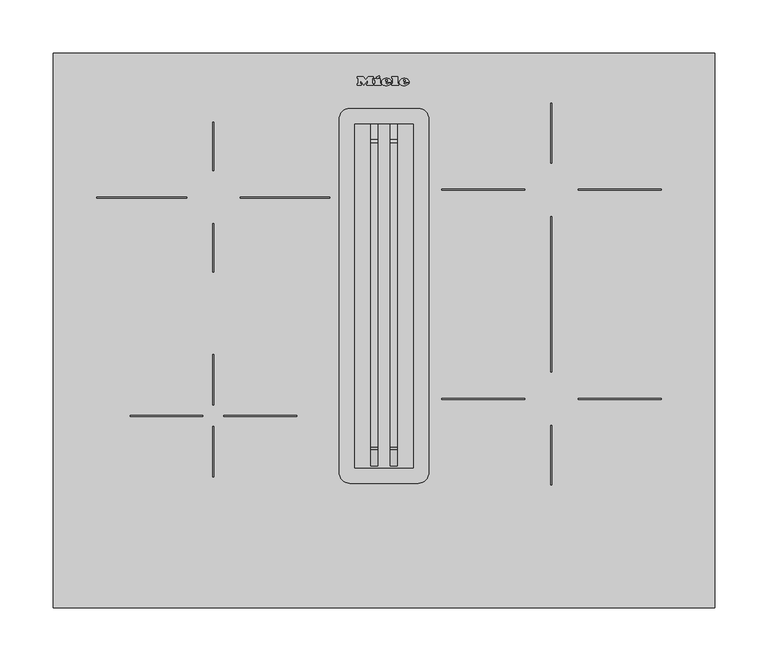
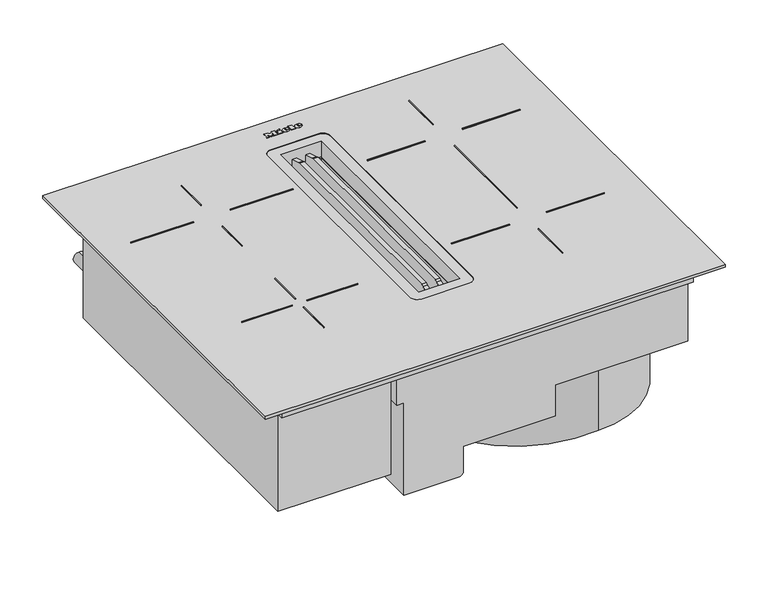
"""IFC4 building model written with IfcOpenShell, lengths in millimetres: proxy geometry, 13161470_CH_KMDA5649FL_MASW : 26D56493_CH_13161470_KMDA5649FL_MASW."""

from ifc_helpers import new_model, si_unit, point, frame, frame_2d, origin, origin_with_axes, place, context, project, spatial, polyline, circle_curve, ellipse_curve, trimmed, segment, composite_curve, outline, extrude, source, transform, mapped, element, save
from ifc_brep_helpers import plane_surface, cylinder_surface, revolved_surface, extruded_surface, advanced_brep


def specialty_equipment_407eca65(model_context):
    return source(origin(), model_context, "Body", "SolidModel", [
        extrude(outline(polyline([(-185.0231455, 385.2660958), (-185.0231455, 384.3745919), (-269.253587, 384.3745919), (-269.253587, 385.2660958), (-185.0231455, 385.2660958)])), frame((0.0, 0.0, 4.0), z_axis=(0.0, 0.0, 1.0), x_axis=(1.0, 0.0, 0.0)), (0.0, 0.0, 1.0), 1.0),
        extrude(outline(polyline([(-50.7511355, 385.2660958), (-50.7511355, 384.3745919), (-134.981577, 384.3745919), (-134.981577, 385.2660958), (-50.7511355, 385.2660958)])), frame((0.0, 0.0, 4.0), z_axis=(0.0, 0.0, 1.0), x_axis=(1.0, 0.0, 0.0)), (0.0, 0.0, 1.0), 1.0),
        extrude(outline(polyline([(-160.5088115, 410.0057875), (-160.5088115, 455.4962451), (-159.6889436, 455.4962451), (-159.6889436, 410.0057875), (-160.5088115, 410.0057875)])), frame((0.0, 0.0, 4.0), z_axis=(0.0, 0.0, 1.0), x_axis=(1.0, 0.0, 0.0)), (0.0, 0.0, 1.0), 1.0),
        extrude(outline(polyline([(-160.5088115, 314.5331558), (-160.5088115, 360.0236134), (-159.6889436, 360.0236134), (-159.6889436, 314.5331558), (-160.5088115, 314.5331558)])), frame((0.0, 0.0, 4.0), z_axis=(0.0, 0.0, 1.0), x_axis=(1.0, 0.0, 0.0)), (0.0, 0.0, 1.0), 1.0),
        extrude(outline(polyline([(-160.5088115, 189.963906), (-160.5088115, 237.5012596), (-159.6889436, 237.5012596), (-159.6889436, 189.963906), (-160.5088115, 189.963906)])), frame((0.0, 0.0, 4.0), z_axis=(0.0, 0.0, 1.0), x_axis=(1.0, 0.0, 0.0)), (0.0, 0.0, 1.0), 1.0),
        extrude(outline(polyline([(-160.5088115, 122.4905434), (-160.5088115, 170.0291789), (-159.6889436, 170.0291789), (-159.6889436, 122.4905434), (-160.5088115, 122.4905434)])), frame((0.0, 0.0, 4.0), z_axis=(0.0, 0.0, 1.0), x_axis=(1.0, 0.0, 0.0)), (0.0, 0.0, 1.0), 1.0),
        extrude(outline(polyline([(-170.0081079, 180.2663712), (-170.0081079, 179.3748673), (-238.0057352, 179.3748673), (-238.0057352, 180.2663712), (-170.0081079, 180.2663712)])), frame((0.0, 0.0, 4.0), z_axis=(0.0, 0.0, 1.0), x_axis=(1.0, 0.0, 0.0)), (0.0, 0.0, 1.0), 1.0),
        extrude(outline(polyline([(-81.9709245, 180.2663712), (-81.9709245, 179.3748673), (-150.0311368, 179.3748673), (-150.0311368, 180.2663712), (-81.9709245, 180.2663712)])), frame((0.0, 0.0, 4.0), z_axis=(0.0, 0.0, 1.0), x_axis=(1.0, 0.0, 0.0)), (0.0, 0.0, 1.0), 1.0),
        extrude(outline(polyline([(53.9676301, 392.454808), (131.7263568, 392.454808), (131.7263568, 391.5633041), (53.9676301, 391.5633041), (53.9676301, 392.454808)])), frame((0.0, 0.0, 4.0), z_axis=(0.0, 0.0, 1.0), x_axis=(1.0, 0.0, 0.0)), (0.0, 0.0, 1.0), 1.0),
        extrude(outline(polyline([(157.2535913, 417.0048626), (156.4337234, 417.0048626), (156.4337234, 473.0086376), (157.2535913, 473.0086376), (157.2535913, 417.0048626)])), frame((0.0, 0.0, 4.0), z_axis=(0.0, 0.0, 1.0), x_axis=(1.0, 0.0, 0.0)), (0.0, 0.0, 1.0), 1.0),
        extrude(outline(polyline([(181.9868936, 392.454808), (259.7456203, 392.454808), (259.7456203, 391.5633041), (181.9868936, 391.5633041), (181.9868936, 392.454808)])), frame((0.0, 0.0, 4.0), z_axis=(0.0, 0.0, 1.0), x_axis=(1.0, 0.0, 0.0)), (0.0, 0.0, 1.0), 1.0),
        extrude(outline(polyline([(156.4337234, 367.0175808), (157.2535913, 367.0175808), (157.2535913, 220.9830529), (156.4337234, 220.9830529), (156.4337234, 367.0175808)])), frame((0.0, 0.0, 4.0), z_axis=(0.0, 0.0, 1.0), x_axis=(1.0, 0.0, 0.0)), (0.0, 0.0, 1.0), 1.0),
        extrude(outline(polyline([(53.9907222, 196.2758393), (131.9846022, 196.2758393), (131.9846022, 195.3843354), (53.9907222, 195.3843354), (53.9907222, 196.2758393)])), frame((0.0, 0.0, 4.0), z_axis=(0.0, 0.0, 1.0), x_axis=(1.0, 0.0, 0.0)), (0.0, 0.0, 1.0), 1.0),
        extrude(outline(polyline([(182.2319594, 196.2758393), (259.9906861, 196.2758393), (259.9906861, 195.3843354), (182.2319594, 195.3843354), (182.2319594, 196.2758393)])), frame((0.0, 0.0, 4.0), z_axis=(0.0, 0.0, 1.0), x_axis=(1.0, 0.0, 0.0)), (0.0, 0.0, 1.0), 1.0),
        extrude(outline(polyline([(156.4337234, 170.969821), (157.2535913, 170.969821), (157.2535913, 115.0020284), (156.4337234, 115.0020284), (156.4337234, 170.969821)])), frame((0.0, 0.0, 4.0), z_axis=(0.0, 0.0, 1.0), x_axis=(1.0, 0.0, 0.0)), (0.0, 0.0, 1.0), 1.0),
        extrude(outline(polyline([(310.0, 520.0), (310.0, 0.0), (-310.0, 0.0), (-310.0, 520.0), (310.0, 520.0)]), holes=[composite_curve([segment(trimmed(circle_curve(frame_2d((32.0, 126.6999969)), 10.0), [point((32.0, 116.6999969))], [point((42.0, 126.6999969))], True, "CARTESIAN"), True, "CONTINUOUS"), segment(polyline([(42.0, 126.6999969), (42.0, 458.1999969)]), True, "CONTINUOUS"), segment(trimmed(circle_curve(frame_2d((32.0, 458.1999969)), 10.0), [point((42.0, 458.1999969))], [point((32.0, 468.1999969))], True, "CARTESIAN"), True, "CONTINUOUS"), segment(polyline([(32.0, 468.1999969), (-32.0, 468.1999969)]), True, "CONTINUOUS"), segment(trimmed(circle_curve(frame_2d((-32.0, 458.1999969)), 10.0), [point((-32.0, 468.1999969))], [point((-42.0, 458.1999969))], True, "CARTESIAN"), True, "CONTINUOUS"), segment(polyline([(-42.0, 458.1999969), (-42.0, 126.6999969)]), True, "CONTINUOUS"), segment(trimmed(circle_curve(frame_2d((-32.0, 126.6999969)), 10.0), [point((-42.0, 126.6999969))], [point((-32.0, 116.6999969))], True, "CARTESIAN"), True, "CONTINUOUS"), segment(polyline([(-32.0, 116.6999969), (32.0, 116.6999969)]), True, "CONTINUOUS")], self_intersect=False)]), origin_with_axes(), (0.0, 0.0, 1.0), 4.0),
        extrude(outline(composite_curve([segment(trimmed(circle_curve(frame_2d((-99.3499878, -262.3920059)), 8.0), [point((-91.3499878, -262.3920059))], [point((-107.3499878, -262.3920059))], False, "CARTESIAN"), True, "CONTINUOUS"), segment(trimmed(circle_curve(frame_2d((-99.3499878, -262.3920059)), 8.0), [point((-107.3499878, -262.3920059))], [point((-91.3499878, -262.3920059))], False, "CARTESIAN"), True, "CONTINUOUS")], self_intersect=False)), frame((0.0, 487.2997641, 0.0), z_axis=(0.0, 1.0, 0.0), x_axis=(0.0, 0.0, 1.0)), (0.0, 0.0, 1.0), 30.0),
        extrude(outline(polyline([(-103.3499878, -256.4901977), (-95.313483, -256.4901977), (-95.313483, -262.2664355), (-96.3180461, -262.2664355), (-96.3180461, -257.4947608), (-98.7038834, -257.4947608), (-98.7038834, -262.0152948), (-99.7084466, -262.0152948), (-99.7084466, -257.4947608), (-102.3454247, -257.4947608), (-102.3454247, -262.3920059), (-103.3499878, -262.3920059), (-103.3499878, -256.4901977)])), frame((0.0, 517.2997641, 0.0), z_axis=(0.0, 1.0, 0.0), x_axis=(0.0, 0.0, 1.0)), (0.0, 0.0, 1.0), 1.0),
        extrude(outline(polyline([(-103.3499878, -263.8988506), (-95.313483, -263.8988506), (-95.313483, -264.9034137), (-102.3454247, -264.9034137), (-102.3454247, -268.9216661), (-103.3499878, -268.9216661), (-103.3499878, -263.8988506)])), frame((0.0, 517.2997641, 0.0), z_axis=(0.0, 1.0, 0.0), x_axis=(0.0, 0.0, 1.0)), (0.0, 0.0, 1.0), 1.0),
        extrude(outline(polyline([(132.855793, -27.8644755), (132.855793, -8.7892649), (148.3794196, -4.6000061), (150.5794257, -2.4), (435.4785822, -2.4), (439.3785822, -4.5), (455.2872525, -8.7931659), (455.2872525, -27.8644755), (132.855793, -27.8644755)])), frame((6.0183469, 0.0, 0.0), z_axis=(1.0, 0.0, 0.0), x_axis=(0.0, 1.0, 0.0)), (0.0, 0.0, 1.0), 6.1876133),
        extrude(outline(polyline([(277.5, 502.0), (277.5, 18.0), (-277.5, 18.0), (-277.5, 502.0), (277.5, 502.0)]), holes=[polyline([(42.0, 468.1999969), (-42.0, 468.1999969), (-42.0, 116.6999969), (42.0, 116.6999969), (42.0, 468.1999969)])]), frame((0.0, 0.0, -20.5), z_axis=(0.0, 0.0, 1.0), x_axis=(1.0, 0.0, 0.0)), (0.0, 0.0, 1.0), 20.5),
        extrude(outline(polyline([(487.2997641, -163.5), (32.4997998, -163.5), (32.4997998, -20.5), (491.8999939, -20.5), (491.8999939, -24.5), (487.2997641, -24.5), (487.2997641, -163.5)])), frame((-274.5, 0.0, 0.0), z_axis=(1.0, 0.0, 0.0), x_axis=(0.0, 1.0, 0.0)), (0.0, 0.0, 1.0), 152.0),
        advanced_brep(
        [(-32.4952011, 19.0, -183.8499954), (-32.4952011, 19.0, -147.4324921), (91.658851, 19.0, -147.4324921), (91.658851, 19.0, -102.7499939), (270.7999878, 19.0, -102.7499939), (270.7999878, 19.0, -20.5), (-121.7377896, 19.0, -20.5), (-121.7377896, 19.0, -57.4346007), (-112.4711008, 19.0, -57.4346007), (-112.4711008, 19.0, -188.8499954), (-37.4952011, 19.0, -188.8499954), (-32.4952011, 500.779007, -183.8499954), (-37.4952011, 500.779007, -188.8499954), (-112.4711008, 500.779007, -188.8499954), (-112.4711008, 500.779007, -57.4346007), (-121.7377896, 500.779007, -57.4346007), (-121.7377896, 500.779007, -20.5), (270.7999878, 500.779007, -20.5), (270.7999878, 500.779007, -102.7499939), (110.0, 500.779007, -102.7499939), (110.0, 500.779007, -100.9499939), (-18.6499996, 500.779007, -100.9499939), (-18.6499996, 500.779007, -147.4324921), (-32.4952011, 500.779007, -147.4324921), (-18.6499996, 467.769162, -147.4324921), (-10.5056189, 467.769162, -147.4324921), (-10.5056189, 336.4911245, -147.4324921), (-25.2594925, 171.0944197, -147.4324921), (91.658851, 30.3896584, -147.4324921), (91.658851, 30.3896584, -102.7499939), (153.5433459, 26.0504496, -102.7499939), (270.7999878, 117.1371356, -102.7499939), (270.7999878, 220.7870548, -102.7499939), (229.3122977, 276.3279279, -102.7499939), (211.8034997, 300.2166013, -102.7499939), (211.8034997, 468.1999969, -102.7499939), (110.0, 468.1999969, -102.7499939), (270.7999878, 117.1371356, -100.9499939), (270.7999878, 220.7870548, -100.9499939), (-27.5, 453.6999969, -20.5), (27.5, 453.6999969, -20.5), (27.5, 131.1999969, -20.5), (-27.5, 131.1999969, -20.5), (-25.2594925, 171.0944197, -193.675824), (-10.5056189, 336.4911245, -193.675824), (-10.5056189, 468.1999969, -193.675824), (211.8034997, 468.1999969, -193.675824), (211.8034997, 300.2166013, -193.675824), (229.3122977, 276.3279279, -193.675824), (274.1146874, 144.1558135, -193.675824), (153.5433459, 26.0504496, -193.675824), (274.1146874, 144.1558135, -100.9499939), (-10.5056189, 468.1999969, -100.9499939), (110.0, 468.1999969, -100.9499939), (-10.5056189, 467.769162, -100.9499939), (-18.6499996, 467.769162, -100.9499939), (27.5, 453.6999969, -74.5751385), (-27.5, 453.6999969, -74.5751385), (-27.5, 131.1999969, -74.5751385), (27.5, 131.1999969, -74.5751385)],
        [
            (0, 1),
            (1, 2),
            (2, 3),
            (3, 4),
            (4, 5),
            (5, 6),
            (6, 7),
            (7, 8),
            (8, 9),
            (9, 10),
            (10, 0, circle_curve(frame((-37.4952011, 19.0, -183.8499954), z_axis=(0.0, -1.0, 0.0), x_axis=(1.0, 0.0, 0.0)), 5.0)),
            (11, 12, circle_curve(frame((-37.4952011, 500.779007, -183.8499954), z_axis=(0.0, 1.0, 0.0), x_axis=(1.0, 0.0, 0.0)), 5.0)),
            (12, 13),
            (13, 14),
            (14, 15),
            (15, 16),
            (16, 17),
            (17, 18),
            (18, 19),
            (19, 20),
            (20, 21),
            (21, 22),
            (22, 23),
            (23, 11),
            (0, 11),
            (23, 1),
            (22, 24),
            (24, 25),
            (25, 26),
            (26, 27, circle_curve(frame((461.6691765, 211.0153439, -147.4324921), z_axis=(0.0, 0.0, 1.0), x_axis=(1.0, 0.0, 0.0)), 488.56239)),
            (27, 28, circle_curve(frame((133.5319768, 184.1129635, -147.4324921), z_axis=(0.0, 0.0, 1.0), x_axis=(1.0, 0.0, 0.0)), 159.3242392)),
            (28, 2),
            (28, 29),
            (29, 3),
            (29, 30, circle_curve(frame((133.5319768, 184.1129635, -102.7499939), z_axis=(0.0, 0.0, 1.0), x_axis=(1.0, 0.0, 0.0)), 159.3242392)),
            (30, 31, circle_curve(frame((155.1159176, 145.0421291, -102.7499939), z_axis=(0.0, 0.0, 1.0), x_axis=(1.0, 0.0, 0.0)), 119.0020704)),
            (31, 4),
            (18, 32),
            (32, 33, circle_curve(frame((154.7697154, 177.3808326, -102.7499939), z_axis=(0.0, 0.0, 1.0), x_axis=(1.0, 0.0, 0.0)), 123.8835107)),
            (33, 34),
            (34, 35),
            (35, 36),
            (36, 19),
            (31, 37),
            (37, 38),
            (38, 32),
            (17, 5),
            (16, 6),
            (39, 40),
            (40, 41),
            (41, 42),
            (42, 39),
            (15, 7),
            (14, 8),
            (13, 9),
            (12, 10),
            (43, 44, circle_curve(frame((461.6691765, 211.0153439, -193.675824), z_axis=(0.0, 0.0, -1.0), x_axis=(1.0, 0.0, 0.0)), 488.56239)),
            (44, 45),
            (45, 46),
            (46, 47),
            (47, 48),
            (48, 49, circle_curve(frame((154.7697154, 177.3808326, -193.675824), z_axis=(0.0, 0.0, -1.0), x_axis=(1.0, 0.0, 0.0)), 123.8835107)),
            (49, 50, circle_curve(frame((155.1159176, 145.0421291, -193.675824), z_axis=(0.0, 0.0, -1.0), x_axis=(1.0, 0.0, 0.0)), 119.0020704)),
            (50, 43, circle_curve(frame((133.5319768, 184.1129635, -193.675824), z_axis=(0.0, 0.0, -1.0), x_axis=(1.0, 0.0, 0.0)), 159.3242392)),
            (37, 51, circle_curve(frame((155.1159176, 145.0421291, -100.9499939), z_axis=(0.0, 0.0, 1.0), x_axis=(1.0, 0.0, 0.0)), 119.0020704)),
            (51, 38, circle_curve(frame((154.7697154, 177.3808326, -100.9499939), z_axis=(0.0, 0.0, 1.0), x_axis=(1.0, 0.0, 0.0)), 123.8835107)),
            (50, 30),
            (27, 43),
            (49, 51),
            (47, 34),
            (33, 48),
            (46, 35),
            (45, 52),
            (52, 53),
            (53, 36),
            (44, 26),
            (25, 54),
            (54, 52),
            (24, 55),
            (55, 54),
            (21, 55),
            (56, 57),
            (57, 58),
            (58, 59),
            (59, 56),
            (56, 40),
            (39, 57),
            (42, 58),
            (41, 59),
            (53, 20),
        ],
        [
            plane_surface(frame((-32.4952011, 19.0, -147.4324921), z_axis=(0.0, -1.0, 0.0), x_axis=(0.0, 0.0, 1.0))),
            plane_surface(frame((-32.4952011, 500.779007, -147.4324921), z_axis=(0.0, 1.0, 0.0), x_axis=(0.0, 0.0, -1.0))),
            plane_surface(frame((-32.4952011, 19.0, -183.8499954), z_axis=(1.0, 0.0, 0.0), x_axis=(0.0, 1.0, 0.0))),
            plane_surface(frame((-32.4952011, 19.0, -147.4324921), z_axis=(0.0, 0.0, -1.0), x_axis=(0.0, 1.0, 0.0))),
            plane_surface(frame((91.658851, 19.0, -147.4324921), z_axis=(1.0, 0.0, 0.0), x_axis=(0.0, 1.0, 0.0))),
            plane_surface(frame((91.658851, 19.0, -102.7499939), z_axis=(0.0, 0.0, -1.0), x_axis=(0.0, 1.0, 0.0))),
            plane_surface(frame((270.7999878, 19.0, -102.7499939), z_axis=(1.0, 0.0, 0.0), x_axis=(0.0, 1.0, 0.0))),
            plane_surface(frame((270.7999878, 19.0, -20.5), z_axis=(0.0, 0.0, 1.0), x_axis=(0.0, 1.0, 0.0))),
            plane_surface(frame((-121.7377896, 19.0, -20.5), z_axis=(-1.0, 0.0, 0.0), x_axis=(0.0, 1.0, 0.0))),
            plane_surface(frame((-121.7377896, 19.0, -57.4346007), z_axis=(0.0, 0.0, -1.0), x_axis=(0.0, 1.0, 0.0))),
            plane_surface(frame((-112.4711008, 19.0, -57.4346007), z_axis=(-1.0, 0.0, 0.0), x_axis=(0.0, 1.0, 0.0))),
            plane_surface(frame((-112.4711008, 19.0, -188.8499954), z_axis=(0.0, 0.0, -1.0), x_axis=(0.0, 1.0, 0.0))),
            cylinder_surface(frame((-37.4952011, 500.779007, -183.8499954), z_axis=(0.0, -1.0, 0.0), x_axis=(1.0, 0.0, 0.0)), 5.0),
            plane_surface(frame((292.856216, 184.1129635, -193.675824), z_axis=(0.0, 0.0, -1.0), x_axis=(0.0, -1.0, 0.0))),
            plane_surface(frame((292.856216, 184.1129635, -100.9499939), z_axis=(0.0, 0.0, 1.0), x_axis=(0.0, 1.0, 0.0))),
            cylinder_surface(frame((133.5319768, 184.1129635, -193.675824), z_axis=(0.0, 0.0, 1.0), x_axis=(1.0, 0.0, 0.0)), 159.3242392),
            cylinder_surface(frame((155.1159176, 145.0421291, -193.675824), z_axis=(0.0, 0.0, 1.0), x_axis=(1.0, 0.0, 0.0)), 119.0020704),
            plane_surface(frame((229.3122977, 276.3279279, -100.9499939), z_axis=(0.8065589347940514, 0.5911536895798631, 0.0), x_axis=(0.0, 0.0, -1.0))),
            plane_surface(frame((211.8034997, 300.2166013, -100.9499939), z_axis=(1.0, 0.0, 0.0), x_axis=(0.0, 0.0, -1.0))),
            plane_surface(frame((211.8034997, 468.1999969, -100.9499939), z_axis=(0.0, 1.0, 0.0), x_axis=(0.0, 0.0, -1.0))),
            plane_surface(frame((-10.5056189, 468.1999969, -100.9499939), z_axis=(-1.0, 0.0, 0.0), x_axis=(0.0, 0.0, -1.0))),
            cylinder_surface(frame((461.6691765, 211.0153439, -193.675824), z_axis=(0.0, 0.0, 1.0), x_axis=(1.0, 0.0, 0.0)), 488.56239),
            cylinder_surface(frame((154.7697154, 177.3808326, -193.675824), z_axis=(0.0, 0.0, 1.0), x_axis=(1.0, 0.0, 0.0)), 123.8835107),
            plane_surface(frame((110.0, 467.769162, -156.5), z_axis=(0.0, 1.0, 0.0), x_axis=(0.0, 0.0, 1.0))),
            plane_surface(frame((-18.6499996, 467.769162, -100.9499939), z_axis=(1.0, 0.0, 0.0), x_axis=(0.0, 1.0, 0.0))),
            plane_surface(frame((-27.5, 453.6999969, -74.5751385), z_axis=(0.0, 0.0, 1.0), x_axis=(1.0, 0.0, 0.0))),
            plane_surface(frame((27.5, 453.6999969, 250.0), z_axis=(0.0, -1.0, 0.0), x_axis=(0.0, 0.0, -1.0))),
            plane_surface(frame((-27.5, 453.6999969, 250.0), z_axis=(1.0, 0.0, 0.0), x_axis=(0.0, 0.0, -1.0))),
            plane_surface(frame((-27.5, 131.1999969, 250.0), z_axis=(0.0, 1.0, 0.0), x_axis=(0.0, 0.0, -1.0))),
            plane_surface(frame((27.5, 131.1999969, 250.0), z_axis=(-1.0, 0.0, 0.0), x_axis=(0.0, 0.0, -1.0))),
            plane_surface(frame((110.0, 467.769162, -156.5), z_axis=(-1.0, 0.0, 0.0), x_axis=(0.0, 1.0, 0.0))),
            plane_surface(frame((110.0, 467.769162, -100.9499939), z_axis=(0.0, 0.0, -1.0), x_axis=(0.0, 1.0, 0.0))),
        ],
        [
            (0, [[1, 2, 3, 4, 5, 6, 7, 8, 9, 10, 11]]),
            (1, [[12, 13, 14, 15, 16, 17, 18, 19, 20, 21, 22, 23, 24]]),
            (2, [[-1, 25, -24, 26]]),
            (3, [[-2, -26, -23, 27, 28, 29, 30, 31, 32]]),
            (4, [[-3, -32, 33, 34]]),
            (5, [[-4, -34, 35, 36, 37]]),
            (5, [[-19, 38, 39, 40, 41, 42, 43]]),
            (6, [[-5, -37, 44, 45, 46, -38, -18, 47]]),
            (7, [[-6, -47, -17, 48], [49, 50, 51, 52]]),
            (8, [[-7, -48, -16, 53]]),
            (9, [[-8, -53, -15, 54]]),
            (10, [[-9, -54, -14, 55]]),
            (11, [[-10, -55, -13, 56]]),
            (12, [[-11, -56, -12, -25]]),
            (13, [[57, 58, 59, 60, 61, 62, 63, 64]]),
            (14, [[65, 66, -45]]),
            (15, [[-64, 67, -35, -33, -31, 68]]),
            (16, [[-63, 69, -65, -44, -36, -67]]),
            (17, [[-61, 70, -40, 71]]),
            (18, [[-60, 72, -41, -70]]),
            (19, [[-59, 73, 74, 75, -42, -72]]),
            (20, [[-58, 76, -29, 77, 78, -73]]),
            (21, [[-57, -68, -30, -76]]),
            (22, [[-62, -71, -39, -46, -66, -69]]),
            (23, [[79, 80, -77, -28]]),
            (24, [[-79, -27, -22, 81]]),
            (25, [[82, 83, 84, 85]]),
            (26, [[-82, 86, -49, 87]]),
            (27, [[-83, -87, -52, 88]]),
            (28, [[-84, -88, -51, 89]]),
            (29, [[-85, -89, -50, -86]]),
            (30, [[-20, -43, -75, 90]]),
            (31, [[-81, -21, -90, -74, -78, -80]]),
        ],
    ),
        extrude(outline(composite_curve([segment(trimmed(circle_curve(frame_2d((32.0, 458.1999969)), 10.0), [point((32.0, 468.1999969))], [point((42.0, 458.1999969))], False, "CARTESIAN"), True, "CONTINUOUS"), segment(polyline([(42.0, 458.1999969), (42.0, 126.6999969)]), True, "CONTINUOUS"), segment(trimmed(circle_curve(frame_2d((32.0, 126.6999969)), 10.0), [point((42.0, 126.6999969))], [point((32.0, 116.6999969))], False, "CARTESIAN"), True, "CONTINUOUS"), segment(polyline([(32.0, 116.6999969), (-32.0, 116.6999969)]), True, "CONTINUOUS"), segment(trimmed(circle_curve(frame_2d((-32.0, 126.6999969)), 10.0), [point((-32.0, 116.6999969))], [point((-42.0, 126.6999969))], False, "CARTESIAN"), True, "CONTINUOUS"), segment(polyline([(-42.0, 126.6999969), (-42.0, 458.1999969)]), True, "CONTINUOUS"), segment(trimmed(circle_curve(frame_2d((-32.0, 458.1999969)), 10.0), [point((-42.0, 458.1999969))], [point((-32.0, 468.1999969))], False, "CARTESIAN"), True, "CONTINUOUS"), segment(polyline([(-32.0, 468.1999969), (32.0, 468.1999969)]), True, "CONTINUOUS")], self_intersect=False), holes=[polyline([(-27.5, 131.1999969), (27.5, 131.1999969), (27.5, 453.6999969), (-27.5, 453.6999969), (-27.5, 131.1999969)])]), frame((0.0, 0.0, -18.5), z_axis=(0.0, 0.0, 1.0), x_axis=(1.0, 0.0, 0.0)), (0.0, 0.0, 1.0), 21.9190063),
        extrude(outline(polyline([(132.855793, -27.8644755), (132.855793, -8.7892649), (148.3794196, -4.6000061), (150.5794257, -2.4), (435.4785822, -2.4), (439.3785822, -4.5), (455.2872525, -8.7931659), (455.2872525, -27.8644755), (132.855793, -27.8644755)])), frame((-12.2059602, 0.0, 0.0), z_axis=(1.0, 0.0, 0.0), x_axis=(0.0, 1.0, 0.0)), (0.0, 0.0, 1.0), 6.1876133),
        extrude(outline(polyline([(-25.0, 496.696), (-25.0, 498.0), (-19.424, 498.0), (-17.08, 495.0), (-14.744, 498.0), (-9.872, 498.0), (-9.872, 496.696), (-10.888, 496.696), (-10.888, 491.344), (-9.872, 491.344), (-9.872, 490.0), (-16.256, 490.0), (-16.256, 491.344), (-15.272, 491.344), (-15.272, 494.8152223), (-18.864, 490.0), (-22.44, 494.7471247), (-22.44, 491.344), (-21.48, 491.344), (-21.48, 490.0), (-25.0, 490.0), (-25.0, 491.344), (-24.032, 491.344), (-24.032, 496.696), (-25.0, 496.696)])), frame((0.0, 0.0, 4.0), z_axis=(0.0, 0.0, 1.0), x_axis=(1.0, 0.0, 0.0)), (0.0, 0.0, 1.0), 1.0),
        extrude(outline(polyline([(7.464, 496.696), (7.464, 498.0), (12.968, 498.0), (12.968, 491.344), (13.952, 491.344), (13.952, 490.0), (7.464, 490.0), (7.464, 491.344), (8.424, 491.344), (8.424, 496.696), (7.464, 496.696)])), frame((0.0, 0.0, 4.0), z_axis=(0.0, 0.0, 1.0), x_axis=(1.0, 0.0, 0.0)), (0.0, 0.0, 1.0), 1.0),
        extrude(outline(polyline([(-7.08, 497.528), (-4.36, 498.792), (-3.76, 497.496), (-6.472, 496.232), (-7.08, 497.528)])), frame((0.0, 0.0, 4.0), z_axis=(0.0, 0.0, 1.0), x_axis=(1.0, 0.0, 0.0)), (0.0, 0.0, 1.0), 1.0),
        extrude(outline(polyline([(-9.056, 496.056), (-3.672, 496.056), (-3.672, 491.344), (-2.744, 491.344), (-2.744, 490.0), (-9.056, 490.0), (-9.056, 491.344), (-8.104, 491.344), (-8.104, 494.624), (-9.056, 494.624), (-9.056, 496.056)])), frame((0.0, 0.0, 4.0), z_axis=(0.0, 0.0, 1.0), x_axis=(1.0, 0.0, 0.0)), (0.0, 0.0, 1.0), 1.0),
        advanced_brep(
        [(1.664, 491.896, 5.0), (1.664, 492.704, 5.0), (7.016, 492.704, 5.0), (-2.296, 492.704, 5.0), (-0.096, 490.0, 5.0), (6.88, 491.896, 5.0), (4.464, 491.896, 5.0), (2.56, 491.0, 5.0), (1.664, 493.728, 5.0), (1.664, 494.6, 5.0), (3.032, 494.6, 5.0), (3.032, 493.728, 5.0), (1.664, 491.896, 4.0), (2.56, 491.0, 4.0), (4.464, 491.896, 4.0), (6.88, 491.896, 4.0), (-0.096, 490.0, 4.0), (-2.296, 492.704, 4.0), (7.016, 492.704, 4.0), (1.664, 492.704, 4.0), (1.664, 493.728, 4.0), (3.032, 493.728, 4.0), (3.032, 494.6, 4.0), (1.664, 494.6, 4.0)],
        [
            (0, 1),
            (1, 2),
            (2, 3, ellipse_curve(frame((2.36, 492.704, 5.0), z_axis=(0.0, 0.0, 1.0), x_axis=(-1.0, 0.0, 0.0)), 4.656, 3.848)),
            (3, 4, circle_curve(frame((0.8000436, 492.976, 5.0), z_axis=(0.0, 0.0, 1.0), x_axis=(0.0, -1.0, 0.0)), 3.1079688)),
            (4, 5, circle_curve(frame((2.2667936, 495.088, 5.0), z_axis=(0.0, 0.0, 1.0), x_axis=(0.0, -1.0, 0.0)), 5.6098607)),
            (5, 6),
            (6, 7, circle_curve(frame((2.9510588, 492.64, 5.0), z_axis=(0.0, 0.0, -1.0), x_axis=(0.0, -1.0, 0.0)), 1.6859795)),
            (7, 0, circle_curve(frame((2.56, 491.896, 5.0), z_axis=(0.0, 0.0, -1.0), x_axis=(0.0, -1.0, 0.0)), 0.896)),
            (8, 9),
            (9, 10, circle_curve(frame((2.348, 494.6, 5.0), z_axis=(0.0, 0.0, -1.0), x_axis=(0.0, -1.0, 0.0)), 0.684)),
            (10, 11),
            (11, 8),
            (12, 13, circle_curve(frame((2.56, 491.896, 4.0), z_axis=(0.0, 0.0, 1.0), x_axis=(0.0, -1.0, 0.0)), 0.896)),
            (13, 14, circle_curve(frame((2.9510588, 492.64, 4.0), z_axis=(0.0, 0.0, 1.0), x_axis=(0.0, -1.0, 0.0)), 1.6859795)),
            (14, 15),
            (15, 16, circle_curve(frame((2.2667936, 495.088, 4.0), z_axis=(0.0, 0.0, -1.0), x_axis=(0.0, -1.0, 0.0)), 5.6098607)),
            (16, 17, circle_curve(frame((0.8000436, 492.976, 4.0), z_axis=(0.0, 0.0, -1.0), x_axis=(0.0, -1.0, 0.0)), 3.1079688)),
            (17, 18, ellipse_curve(frame((2.36, 492.704, 4.0), z_axis=(0.0, 0.0, -1.0), x_axis=(-1.0, 0.0, 0.0)), 4.656, 3.848)),
            (18, 19),
            (19, 12),
            (20, 21),
            (21, 22),
            (22, 23, circle_curve(frame((2.348, 494.6, 4.0), z_axis=(0.0, 0.0, 1.0), x_axis=(0.0, -1.0, 0.0)), 0.684)),
            (23, 20),
            (0, 12),
            (19, 1),
            (18, 2),
            (5, 15),
            (14, 6),
            (17, 3),
            (13, 7),
            (16, 4),
            (8, 20),
            (23, 9),
            (22, 10),
            (21, 11),
        ],
        [
            plane_surface(frame((1.664, 492.704, 5.0), z_axis=(0.0, 0.0, 1.0), x_axis=(0.0, 1.0, 0.0))),
            plane_surface(frame((1.664, 492.704, 4.0), z_axis=(0.0, 0.0, -1.0), x_axis=(0.0, -1.0, 0.0))),
            plane_surface(frame((1.664, 491.896, 5.0), z_axis=(1.0, 0.0, 0.0), x_axis=(0.0, 0.0, -1.0))),
            plane_surface(frame((1.664, 492.704, 5.0), z_axis=(0.0, -1.0, 0.0), x_axis=(0.0, 0.0, -1.0))),
            plane_surface(frame((6.88, 491.896, 5.0), z_axis=(0.0, 1.0, 0.0), x_axis=(0.0, 0.0, -1.0))),
            extruded_surface(trimmed(ellipse_curve(frame((2.36, 492.704, 3.0), z_axis=(0.0, 0.0, 1.0), x_axis=(-1.0, 0.0, 0.0)), 4.656, 3.848), [point((7.016, 492.704, 3.0))], [point((-2.296, 492.704, 3.0))], True, "CARTESIAN"), (0.0, 0.0, 1.0), 1.0),
            revolved_surface(polyline([(2.9510588, 490.9540205, 4.0), (2.9510588, 490.9540205, 5.0)]), (2.9510588, 492.64, 4.0), (0.0, 0.0, -1.0)),
            revolved_surface(polyline([(2.56, 491.0, 4.0), (2.56, 491.0, 5.0)]), (2.56, 491.896, 4.0), (0.0, 0.0, -1.0)),
            cylinder_surface(frame((0.8000436, 492.976, 4.0), z_axis=(0.0, 0.0, 1.0), x_axis=(0.0, -1.0, 0.0)), 3.1079688),
            cylinder_surface(frame((2.2667936, 495.088, 4.0), z_axis=(0.0, 0.0, 1.0), x_axis=(0.0, -1.0, 0.0)), 5.6098607),
            plane_surface(frame((1.664, 493.728, 5.0), z_axis=(1.0, 0.0, 0.0), x_axis=(0.0, 0.0, -1.0))),
            revolved_surface(polyline([(2.348, 493.916, 4.0), (2.348, 493.916, 5.0)]), (2.348, 494.6, 4.0), (0.0, 0.0, -1.0)),
            plane_surface(frame((3.032, 494.6, 5.0), z_axis=(-1.0, 0.0, 0.0), x_axis=(0.0, 0.0, -1.0))),
            plane_surface(frame((3.032, 493.728, 5.0), z_axis=(0.0, 1.0, 0.0), x_axis=(0.0, 0.0, -1.0))),
        ],
        [
            (0, [[1, 2, 3, 4, 5, 6, 7, 8], [9, 10, 11, 12]]),
            (1, [[13, 14, 15, 16, 17, 18, 19, 20], [21, 22, 23, 24]]),
            (2, [[-1, 25, -20, 26]]),
            (3, [[-2, -26, -19, 27]]),
            (4, [[-6, 28, -15, 29]]),
            (5, [[-3, -27, -18, 30]]),
            (6, [[-7, -29, -14, 31]]),
            (7, [[-8, -31, -13, -25]]),
            (8, [[-4, -30, -17, 32]]),
            (9, [[-5, -32, -16, -28]]),
            (10, [[-9, 33, -24, 34]]),
            (11, [[-10, -34, -23, 35]]),
            (12, [[-11, -35, -22, 36]]),
            (13, [[-12, -36, -21, -33]]),
        ],
    ),
        advanced_brep(
        [(18.36, 491.896, 5.0), (18.36, 492.704, 5.0), (23.712, 492.704, 5.0), (14.4, 492.704, 5.0), (16.6, 490.0, 5.0), (23.576, 491.896, 5.0), (21.16, 491.896, 5.0), (19.256, 491.0, 5.0), (18.36, 493.728, 5.0), (18.36, 494.6, 5.0), (19.728, 494.6, 5.0), (19.728, 493.728, 5.0), (18.36, 491.896, 4.0), (19.256, 491.0, 4.0), (21.16, 491.896, 4.0), (23.576, 491.896, 4.0), (16.6, 490.0, 4.0), (14.4, 492.704, 4.0), (23.712, 492.704, 4.0), (18.36, 492.704, 4.0), (18.36, 493.728, 4.0), (19.728, 493.728, 4.0), (19.728, 494.6, 4.0), (18.36, 494.6, 4.0)],
        [
            (0, 1),
            (1, 2),
            (2, 3, ellipse_curve(frame((19.056, 492.704, 5.0), z_axis=(0.0, 0.0, 1.0), x_axis=(-1.0, 0.0, 0.0)), 4.656, 3.848)),
            (3, 4, circle_curve(frame((17.4960436, 492.976, 5.0), z_axis=(0.0, 0.0, 1.0), x_axis=(0.0, -1.0, 0.0)), 3.1079688)),
            (4, 5, circle_curve(frame((18.9627936, 495.088, 5.0), z_axis=(0.0, 0.0, 1.0), x_axis=(0.0, -1.0, 0.0)), 5.6098607)),
            (5, 6),
            (6, 7, circle_curve(frame((19.6470588, 492.64, 5.0), z_axis=(0.0, 0.0, -1.0), x_axis=(0.0, -1.0, 0.0)), 1.6859795)),
            (7, 0, circle_curve(frame((19.256, 491.896, 5.0), z_axis=(0.0, 0.0, -1.0), x_axis=(0.0, -1.0, 0.0)), 0.896)),
            (8, 9),
            (9, 10, circle_curve(frame((19.044, 494.6, 5.0), z_axis=(0.0, 0.0, -1.0), x_axis=(0.0, -1.0, 0.0)), 0.684)),
            (10, 11),
            (11, 8),
            (12, 13, circle_curve(frame((19.256, 491.896, 4.0), z_axis=(0.0, 0.0, 1.0), x_axis=(0.0, -1.0, 0.0)), 0.896)),
            (13, 14, circle_curve(frame((19.6470588, 492.64, 4.0), z_axis=(0.0, 0.0, 1.0), x_axis=(0.0, -1.0, 0.0)), 1.6859795)),
            (14, 15),
            (15, 16, circle_curve(frame((18.9627936, 495.088, 4.0), z_axis=(0.0, 0.0, -1.0), x_axis=(0.0, -1.0, 0.0)), 5.6098607)),
            (16, 17, circle_curve(frame((17.4960436, 492.976, 4.0), z_axis=(0.0, 0.0, -1.0), x_axis=(0.0, -1.0, 0.0)), 3.1079688)),
            (17, 18, ellipse_curve(frame((19.056, 492.704, 4.0), z_axis=(0.0, 0.0, -1.0), x_axis=(-1.0, 0.0, 0.0)), 4.656, 3.848)),
            (18, 19),
            (19, 12),
            (20, 21),
            (21, 22),
            (22, 23, circle_curve(frame((19.044, 494.6, 4.0), z_axis=(0.0, 0.0, 1.0), x_axis=(0.0, -1.0, 0.0)), 0.684)),
            (23, 20),
            (0, 12),
            (19, 1),
            (18, 2),
            (5, 15),
            (14, 6),
            (17, 3),
            (13, 7),
            (16, 4),
            (8, 20),
            (23, 9),
            (22, 10),
            (21, 11),
        ],
        [
            plane_surface(frame((18.36, 492.704, 5.0), z_axis=(0.0, 0.0, 1.0), x_axis=(0.0, 1.0, 0.0))),
            plane_surface(frame((18.36, 492.704, 4.0), z_axis=(0.0, 0.0, -1.0), x_axis=(0.0, -1.0, 0.0))),
            plane_surface(frame((18.36, 491.896, 5.0), z_axis=(1.0, 0.0, 0.0), x_axis=(0.0, 0.0, -1.0))),
            plane_surface(frame((18.36, 492.704, 5.0), z_axis=(0.0, -1.0, 0.0), x_axis=(0.0, 0.0, -1.0))),
            plane_surface(frame((23.576, 491.896, 5.0), z_axis=(0.0, 1.0, 0.0), x_axis=(0.0, 0.0, -1.0))),
            extruded_surface(trimmed(ellipse_curve(frame((19.056, 492.704, 3.0), z_axis=(0.0, 0.0, 1.0), x_axis=(-1.0, 0.0, 0.0)), 4.656, 3.848), [point((23.712, 492.704, 3.0))], [point((14.4, 492.704, 3.0))], True, "CARTESIAN"), (0.0, 0.0, 1.0), 1.0),
            revolved_surface(polyline([(19.6470588, 490.9540205, 4.0), (19.6470588, 490.9540205, 5.0)]), (19.6470588, 492.64, 4.0), (0.0, 0.0, -1.0)),
            revolved_surface(polyline([(19.256, 491.0, 4.0), (19.256, 491.0, 5.0)]), (19.256, 491.896, 4.0), (0.0, 0.0, -1.0)),
            cylinder_surface(frame((17.4960436, 492.976, 4.0), z_axis=(0.0, 0.0, 1.0), x_axis=(0.0, -1.0, 0.0)), 3.1079688),
            cylinder_surface(frame((18.9627936, 495.088, 4.0), z_axis=(0.0, 0.0, 1.0), x_axis=(0.0, -1.0, 0.0)), 5.6098607),
            plane_surface(frame((18.36, 493.728, 5.0), z_axis=(1.0, 0.0, 0.0), x_axis=(0.0, 0.0, -1.0))),
            revolved_surface(polyline([(19.044, 493.916, 4.0), (19.044, 493.916, 5.0)]), (19.044, 494.6, 4.0), (0.0, 0.0, -1.0)),
            plane_surface(frame((19.728, 494.6, 5.0), z_axis=(-1.0, 0.0, 0.0), x_axis=(0.0, 0.0, -1.0))),
            plane_surface(frame((19.728, 493.728, 5.0), z_axis=(0.0, 1.0, 0.0), x_axis=(0.0, 0.0, -1.0))),
        ],
        [
            (0, [[1, 2, 3, 4, 5, 6, 7, 8], [9, 10, 11, 12]]),
            (1, [[13, 14, 15, 16, 17, 18, 19, 20], [21, 22, 23, 24]]),
            (2, [[-1, 25, -20, 26]]),
            (3, [[-2, -26, -19, 27]]),
            (4, [[-6, 28, -15, 29]]),
            (5, [[-3, -27, -18, 30]]),
            (6, [[-7, -29, -14, 31]]),
            (7, [[-8, -31, -13, -25]]),
            (8, [[-4, -30, -17, 32]]),
            (9, [[-5, -32, -16, -28]]),
            (10, [[-9, 33, -24, 34]]),
            (11, [[-10, -34, -23, 35]]),
            (12, [[-11, -35, -22, 36]]),
            (13, [[-12, -36, -21, -33]]),
        ],
    ),
    ])


if __name__ == "__main__":
    model = new_model("IFC4")
    model_context = context("Model", 3, world=origin())
    ifc_project = project(units=[si_unit("LENGTHUNIT", "METRE", prefix="MILLI")], contexts=[model_context])
    site = spatial("IfcSite", under=ifc_project)
    building = spatial("IfcBuilding", under=site)
    placement = place(None, origin())
    specialty_equipment_shape = specialty_equipment_407eca65(model_context)
    element("IfcBuildingElementProxy", 1, Name="13161470_CH_KMDA5649FL_MASW : 26D56493_CH_13161470_KMDA5649FL_MASW", ObjectType="13161470_CH_KMDA5649FL_MASW : 26D56493_CH_13161470_KMDA5649FL_MASW", at=placement, inside=building, context=model_context, shape_type="MappedRepresentation", body=[
        mapped(specialty_equipment_shape, transform((0.0, 0.0, 0.0), x_axis=(1.0, 0.0, 0.0), y_axis=(0.0, 1.0, 0.0), z_axis=(0.0, 0.0, 1.0))),
    ])
    save(model, "model.ifc")
